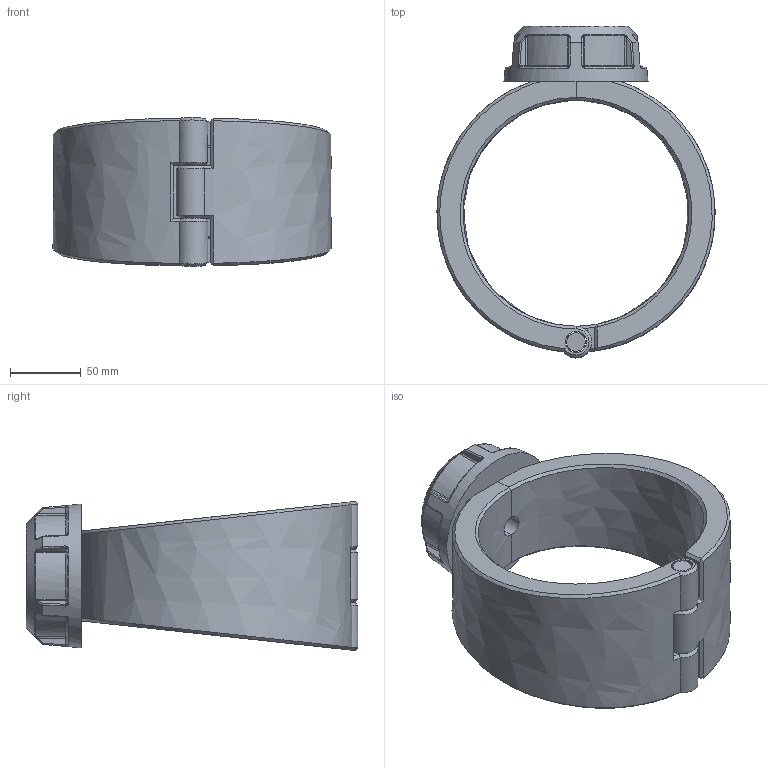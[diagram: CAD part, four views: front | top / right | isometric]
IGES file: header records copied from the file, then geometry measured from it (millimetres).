
Global section: file name: 163000160010; native system: Autodesk Inventor 2019; preprocessor: unknown; author: comp2; date: 20220203.115123; units: millimetre
Bounding box: 196.99 x 235 x 105.57 mm (x, y, z)
Volume: 1071441.5 mm3; surface area: 155816.9 mm2
Topology: 4 solids, 4 shells, 203 faces, 486 edges, 293 vertices
Faces by surface type: bspline 203
